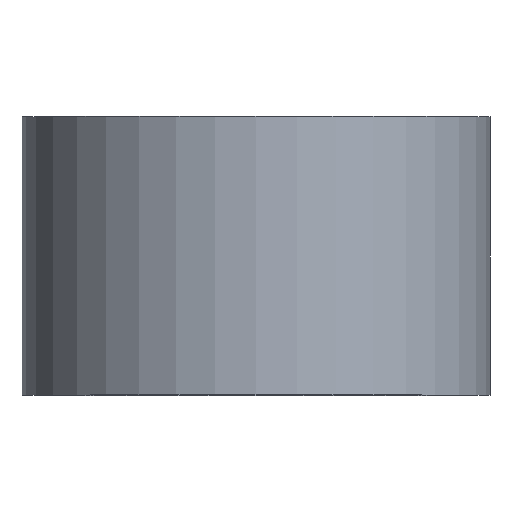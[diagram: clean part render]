
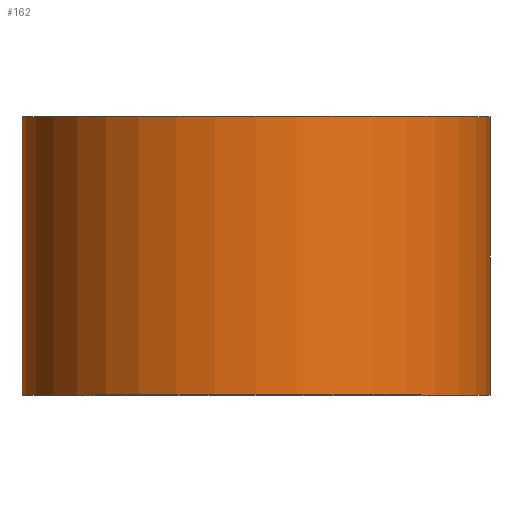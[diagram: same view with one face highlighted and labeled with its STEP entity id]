
A CAD part, top view. The second image highlights one B-rep face of the part: STEP entity #162.
In plain terms, the highlighted cylindrical face has radius 21 mm (diameter 42 mm), a partial arc.
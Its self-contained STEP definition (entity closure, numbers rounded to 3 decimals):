
#9 = CARTESIAN_POINT ( 'NONE',  ( 0., 0., 0. ) ) ;
#25 = CIRCLE ( 'NONE', #164, 21. ) ;
#33 = AXIS2_PLACEMENT_3D ( 'NONE', #289, #136, #153 ) ;
#36 = VERTEX_POINT ( 'NONE', #224 ) ;
#45 = DIRECTION ( 'NONE',  ( 0., 1., 0. ) ) ;
#48 = CIRCLE ( 'NONE', #33, 21. ) ;
#51 = AXIS2_PLACEMENT_3D ( 'NONE', #9, #260, #281 ) ;
#63 = EDGE_CURVE ( 'NONE', #128, #36, #199, .T. ) ;
#80 = EDGE_CURVE ( 'NONE', #150, #176, #288, .T. ) ;
#85 = CARTESIAN_POINT ( 'NONE',  ( 21., 0., 0. ) ) ;
#96 = DIRECTION ( 'NONE',  ( -1., 0., 0. ) ) ;
#125 = ORIENTED_EDGE ( 'NONE', *, *, #63, .F. ) ;
#128 = VERTEX_POINT ( 'NONE', #191 ) ;
#132 = EDGE_LOOP ( 'NONE', ( #205, #201, #249, #125 ) ) ;
#136 = DIRECTION ( 'NONE',  ( 0., 1., 0. ) ) ;
#143 = VECTOR ( 'NONE', #45, 1000. ) ;
#150 = VERTEX_POINT ( 'NONE', #85 ) ;
#153 = DIRECTION ( 'NONE',  ( -1., 0., 0. ) ) ;
#155 = CYLINDRICAL_SURFACE ( 'NONE', #51, 21. ) ;
#160 = VECTOR ( 'NONE', #250, 1000. ) ;
#162 = ADVANCED_FACE ( 'NONE', ( #248 ), #155, .T. ) ;
#164 = AXIS2_PLACEMENT_3D ( 'NONE', #196, #218, #96 ) ;
#176 = VERTEX_POINT ( 'NONE', #282 ) ;
#179 = CARTESIAN_POINT ( 'NONE',  ( 21., 0., 0. ) ) ;
#191 = CARTESIAN_POINT ( 'NONE',  ( -21., 0., 0. ) ) ;
#196 = CARTESIAN_POINT ( 'NONE',  ( 0., 0., 0. ) ) ;
#199 = LINE ( 'NONE', #225, #160 ) ;
#201 = ORIENTED_EDGE ( 'NONE', *, *, #80, .T. ) ;
#205 = ORIENTED_EDGE ( 'NONE', *, *, #291, .T. ) ;
#218 = DIRECTION ( 'NONE',  ( 0., 1., 0. ) ) ;
#224 = CARTESIAN_POINT ( 'NONE',  ( -21., 25., 0. ) ) ;
#225 = CARTESIAN_POINT ( 'NONE',  ( -21., 0., 0. ) ) ;
#238 = EDGE_CURVE ( 'NONE', #36, #176, #48, .T. ) ;
#248 = FACE_OUTER_BOUND ( 'NONE', #132, .T. ) ;
#249 = ORIENTED_EDGE ( 'NONE', *, *, #238, .F. ) ;
#250 = DIRECTION ( 'NONE',  ( 0., 1., 0. ) ) ;
#260 = DIRECTION ( 'NONE',  ( 0., 1., 0. ) ) ;
#281 = DIRECTION ( 'NONE',  ( -1., 0., 0. ) ) ;
#282 = CARTESIAN_POINT ( 'NONE',  ( 21., 25., 0. ) ) ;
#288 = LINE ( 'NONE', #179, #143 ) ;
#289 = CARTESIAN_POINT ( 'NONE',  ( 0., 25., 0. ) ) ;
#291 = EDGE_CURVE ( 'NONE', #128, #150, #25, .T. ) ;
